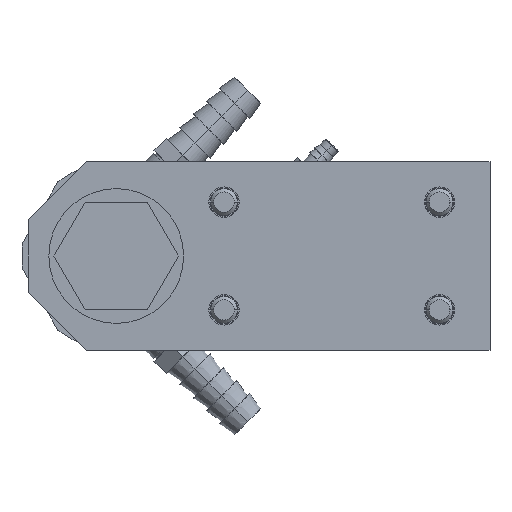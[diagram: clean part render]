
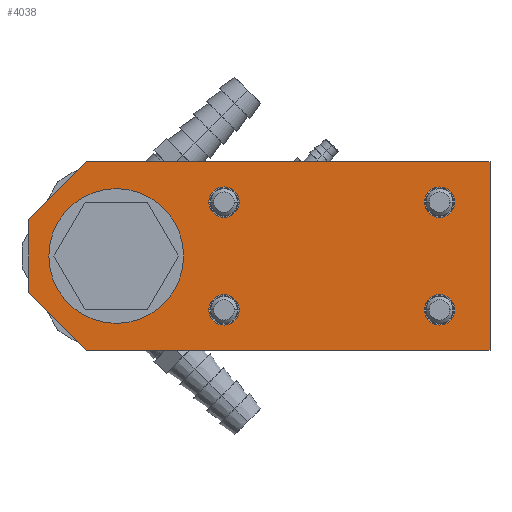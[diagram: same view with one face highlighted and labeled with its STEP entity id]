
A CAD part, left-side view. The second image highlights one B-rep face of the part: STEP entity #4038.
In plain terms, the highlighted planar face has unit normal (-1, 0, 0).
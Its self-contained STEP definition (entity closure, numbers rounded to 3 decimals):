
#3496=CARTESIAN_POINT('',(-3.812,-0.625,0.));
#3497=VERTEX_POINT('',#3496);
#3513=CARTESIAN_POINT('',(-3.812,0.625,0.));
#3514=VERTEX_POINT('',#3513);
#3521=CARTESIAN_POINT('',(-3.812,0.,0.));
#3522=DIRECTION('',(1.0,0.0,0.0));
#3523=DIRECTION('',(0.0,-1.0,0.0));
#3524=AXIS2_PLACEMENT_3D('',#3521,#3522,#3523);
#3525=CIRCLE('',#3524,0.625);
#3526=EDGE_CURVE('',#3497,#3514,#3525,.T.);
#3536=CARTESIAN_POINT('',(-3.812,-1.141,0.5));
#3537=VERTEX_POINT('',#3536);
#3546=CARTESIAN_POINT('',(-3.812,-0.859,0.5));
#3547=VERTEX_POINT('',#3546);
#3548=CARTESIAN_POINT('',(-3.812,-1.,0.5));
#3549=DIRECTION('',(1.0,0.0,0.0));
#3550=DIRECTION('',(0.0,-1.0,0.0));
#3551=AXIS2_PLACEMENT_3D('',#3548,#3549,#3550);
#3552=CIRCLE('',#3551,0.141);
#3553=EDGE_CURVE('',#3547,#3537,#3552,.T.);
#3578=CARTESIAN_POINT('',(-3.812,-3.141,0.5));
#3579=VERTEX_POINT('',#3578);
#3588=CARTESIAN_POINT('',(-3.812,-2.859,0.5));
#3589=VERTEX_POINT('',#3588);
#3590=CARTESIAN_POINT('',(-3.812,-3.0,0.5));
#3591=DIRECTION('',(1.0,0.0,0.0));
#3592=DIRECTION('',(0.0,-1.0,0.0));
#3593=AXIS2_PLACEMENT_3D('',#3590,#3591,#3592);
#3594=CIRCLE('',#3593,0.141);
#3595=EDGE_CURVE('',#3589,#3579,#3594,.T.);
#3620=CARTESIAN_POINT('',(-3.812,-3.141,-0.5));
#3621=VERTEX_POINT('',#3620);
#3630=CARTESIAN_POINT('',(-3.812,-2.859,-0.5));
#3631=VERTEX_POINT('',#3630);
#3632=CARTESIAN_POINT('',(-3.812,-3.0,-0.5));
#3633=DIRECTION('',(1.0,0.0,0.0));
#3634=DIRECTION('',(0.0,-1.0,0.0));
#3635=AXIS2_PLACEMENT_3D('',#3632,#3633,#3634);
#3636=CIRCLE('',#3635,0.141);
#3637=EDGE_CURVE('',#3631,#3621,#3636,.T.);
#3662=CARTESIAN_POINT('',(-3.812,-1.141,-0.5));
#3663=VERTEX_POINT('',#3662);
#3672=CARTESIAN_POINT('',(-3.812,-0.859,-0.5));
#3673=VERTEX_POINT('',#3672);
#3674=CARTESIAN_POINT('',(-3.812,-1.,-0.5));
#3675=DIRECTION('',(1.0,0.0,0.0));
#3676=DIRECTION('',(0.0,-1.0,0.0));
#3677=AXIS2_PLACEMENT_3D('',#3674,#3675,#3676);
#3678=CIRCLE('',#3677,0.141);
#3679=EDGE_CURVE('',#3673,#3663,#3678,.T.);
#3713=CARTESIAN_POINT('',(-3.812,-1.,-0.5));
#3714=DIRECTION('',(1.0,0.0,0.0));
#3715=DIRECTION('',(0.0,-1.0,0.0));
#3716=AXIS2_PLACEMENT_3D('',#3713,#3714,#3715);
#3717=CIRCLE('',#3716,0.141);
#3718=EDGE_CURVE('',#3663,#3673,#3717,.T.);
#3737=CARTESIAN_POINT('',(-3.812,-3.0,-0.5));
#3738=DIRECTION('',(1.0,0.0,0.0));
#3739=DIRECTION('',(0.0,-1.0,0.0));
#3740=AXIS2_PLACEMENT_3D('',#3737,#3738,#3739);
#3741=CIRCLE('',#3740,0.141);
#3742=EDGE_CURVE('',#3621,#3631,#3741,.T.);
#3761=CARTESIAN_POINT('',(-3.812,-3.0,0.5));
#3762=DIRECTION('',(1.0,0.0,0.0));
#3763=DIRECTION('',(0.0,-1.0,0.0));
#3764=AXIS2_PLACEMENT_3D('',#3761,#3762,#3763);
#3765=CIRCLE('',#3764,0.141);
#3766=EDGE_CURVE('',#3579,#3589,#3765,.T.);
#3785=CARTESIAN_POINT('',(-3.812,-1.,0.5));
#3786=DIRECTION('',(1.0,0.0,0.0));
#3787=DIRECTION('',(0.0,-1.0,0.0));
#3788=AXIS2_PLACEMENT_3D('',#3785,#3786,#3787);
#3789=CIRCLE('',#3788,0.141);
#3790=EDGE_CURVE('',#3537,#3547,#3789,.T.);
#3801=CARTESIAN_POINT('',(-3.812,0.,0.));
#3802=DIRECTION('',(1.0,0.0,0.0));
#3803=DIRECTION('',(0.0,-1.0,0.0));
#3804=AXIS2_PLACEMENT_3D('',#3801,#3802,#3803);
#3805=CIRCLE('',#3804,0.625);
#3806=EDGE_CURVE('',#3514,#3497,#3805,.T.);
#3834=CARTESIAN_POINT('',(-3.812,0.813,-0.337));
#3835=VERTEX_POINT('',#3834);
#3842=CARTESIAN_POINT('',(-3.812,0.813,0.337));
#3843=VERTEX_POINT('',#3842);
#3844=CARTESIAN_POINT('',(-3.812,0.813,0.337));
#3845=DIRECTION('',(0.0,0.0,-1.0));
#3846=VECTOR('',#3845,0.673);
#3847=LINE('',#3844,#3846);
#3848=EDGE_CURVE('',#3843,#3835,#3847,.T.);
#3872=CARTESIAN_POINT('',(-3.812,0.274,-0.875));
#3873=VERTEX_POINT('',#3872);
#3880=CARTESIAN_POINT('',(-3.812,0.813,-0.337));
#3881=DIRECTION('',(0.0,-0.707,-0.707));
#3882=VECTOR('',#3881,0.761);
#3883=LINE('',#3880,#3882);
#3884=EDGE_CURVE('',#3835,#3873,#3883,.T.);
#3904=CARTESIAN_POINT('',(-3.812,0.274,0.875));
#3905=VERTEX_POINT('',#3904);
#3906=CARTESIAN_POINT('',(-3.812,0.274,0.875));
#3907=DIRECTION('',(0.0,0.707,-0.707));
#3908=VECTOR('',#3907,0.761);
#3909=LINE('',#3906,#3908);
#3910=EDGE_CURVE('',#3905,#3843,#3909,.T.);
#3926=CARTESIAN_POINT('',(-3.812,-3.467,0.875));
#3927=VERTEX_POINT('',#3926);
#3928=CARTESIAN_POINT('',(-3.812,-3.467,-0.875));
#3929=VERTEX_POINT('',#3928);
#3930=CARTESIAN_POINT('',(-3.812,-3.467,0.875));
#3931=DIRECTION('',(0.0,0.0,-1.0));
#3932=VECTOR('',#3931,1.75);
#3933=LINE('',#3930,#3932);
#3934=EDGE_CURVE('',#3927,#3929,#3933,.T.);
#3966=CARTESIAN_POINT('',(-3.812,-3.467,-0.875));
#3967=DIRECTION('',(0.0,1.0,0.0));
#3968=VECTOR('',#3967,3.742);
#3969=LINE('',#3966,#3968);
#3970=EDGE_CURVE('',#3929,#3873,#3969,.T.);
#3988=CARTESIAN_POINT('',(-3.812,0.274,0.875));
#3989=DIRECTION('',(0.0,-1.0,0.0));
#3990=VECTOR('',#3989,3.742);
#3991=LINE('',#3988,#3990);
#3992=EDGE_CURVE('',#3905,#3927,#3991,.T.);
#4005=CARTESIAN_POINT('',(-3.812,-1.597,0.));
#4006=DIRECTION('',(1.0,0.0,0.0));
#4007=DIRECTION('',(0.0,-1.0,0.0));
#4008=AXIS2_PLACEMENT_3D('',#4005,#4006,#4007);
#4009=PLANE('',#4008);
#4010=ORIENTED_EDGE('',*,*,#3934,.F.);
#4011=ORIENTED_EDGE('',*,*,#3992,.F.);
#4012=ORIENTED_EDGE('',*,*,#3910,.T.);
#4013=ORIENTED_EDGE('',*,*,#3848,.T.);
#4014=ORIENTED_EDGE('',*,*,#3884,.T.);
#4015=ORIENTED_EDGE('',*,*,#3970,.F.);
#4016=EDGE_LOOP('',(#4010,#4011,#4012,#4013,#4014,#4015));
#4017=FACE_OUTER_BOUND('',#4016,.T.);
#4018=ORIENTED_EDGE('',*,*,#3679,.T.);
#4019=ORIENTED_EDGE('',*,*,#3718,.T.);
#4020=EDGE_LOOP('',(#4018,#4019));
#4021=FACE_BOUND('',#4020,.T.);
#4022=ORIENTED_EDGE('',*,*,#3637,.T.);
#4023=ORIENTED_EDGE('',*,*,#3742,.T.);
#4024=EDGE_LOOP('',(#4022,#4023));
#4025=FACE_BOUND('',#4024,.T.);
#4026=ORIENTED_EDGE('',*,*,#3595,.T.);
#4027=ORIENTED_EDGE('',*,*,#3766,.T.);
#4028=EDGE_LOOP('',(#4026,#4027));
#4029=FACE_BOUND('',#4028,.T.);
#4030=ORIENTED_EDGE('',*,*,#3553,.T.);
#4031=ORIENTED_EDGE('',*,*,#3790,.T.);
#4032=EDGE_LOOP('',(#4030,#4031));
#4033=FACE_BOUND('',#4032,.T.);
#4034=ORIENTED_EDGE('',*,*,#3806,.T.);
#4035=ORIENTED_EDGE('',*,*,#3526,.T.);
#4036=EDGE_LOOP('',(#4034,#4035));
#4037=FACE_BOUND('',#4036,.T.);
#4038=ADVANCED_FACE('',(#4017,#4021,#4025,#4029,#4033,#4037),#4009,.F.);
